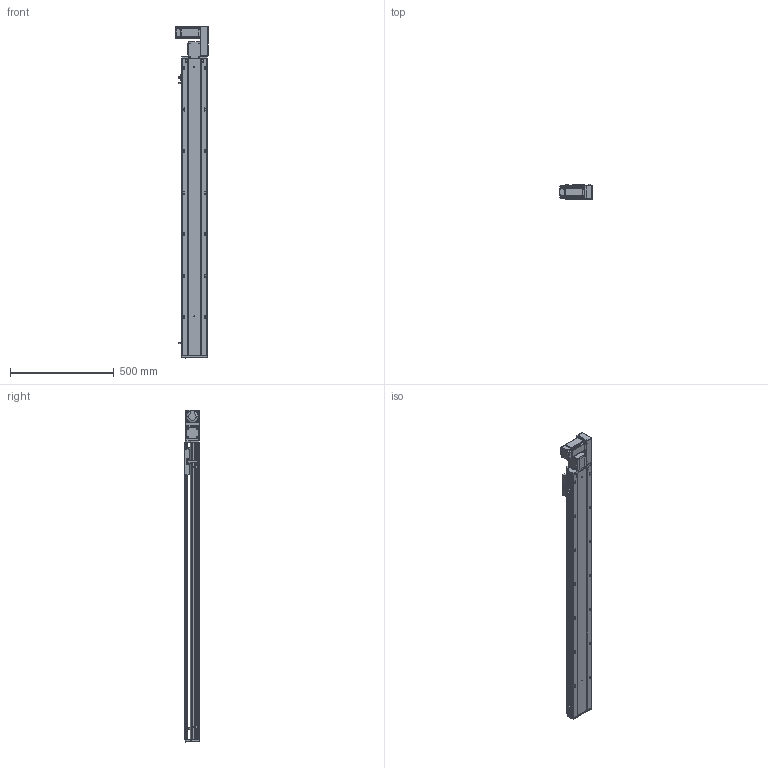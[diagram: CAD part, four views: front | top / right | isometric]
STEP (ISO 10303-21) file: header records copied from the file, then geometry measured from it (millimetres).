
FILE_DESCRIPTION (( 'STEP AP203' ), '1' );
FILE_NAME ('RY120-T-300-RK.SLDASM_1200.step', '2021-03-01T03:53:57', ( '盈信电脑' ), ( '东莞市道滘镇水果街19号' ), 'SwSTEP 2.0', 'SolidWorks 2012', '' );
FILE_SCHEMA (( 'CONFIG_CONTROL_DESIGN' ));
Length unit declared in the file: millimetre
Products named in the file (17): 覜茼ん672; RY120綴裔啣; RY120-T-300-RK倰第奻裔啣_1200; RY120肮祭湍臏賑輸; RY120-T-300-RK倰第菁釱_1200; RY120外置感应片(140共用）; RY120-T萇儂欶; RY120-T蹟翐M4; RY120-T主同步轮轴承压盖; RY120-T-300-RK.SLDASM_1200; 15; RY120-T萇儂假蚾啣; RY120-T翋肮祭謫裔啣; 滅袉蝶18-10; RY120-T肮祭湍揤踡輸2; RY120-T肮祭湍揤踡輸1; RY120-T翋肮祭盓傅釱
Assembly tree (22 placements, depth 2):
  RY120-T-300-RK.SLDASM_1200
    RY120-T-300-RK倰第菁釱_1200
    RY120-T-300-RK倰第奻裔啣_1200
    RY120肮祭湍臏賑輸
    RY120綴裔啣
    覜茼ん672  x3
    RY120外置感应片(140共用）
    RY120-T肮祭湍揤踡輸1
    RY120-T肮祭湍揤踡輸2
    RY120-T翋肮祭盓傅釱
    滅袉蝶18-10  x2
    RY120-T翋肮祭謫裔啣
    15
    RY120-T萇儂假蚾啣
    RY120-T蹟翐M4  x4
    RY120-T萇儂欶
    RY120-T主同步轮轴承压盖
Bounding box: 155.5 x 73 x 1597.5 mm (x, y, z)
Volume: 4056572.9 mm3; surface area: 1523750 mm2
Topology: 23 solids, 23 shells, 2844 faces, 7740 edges, 4950 vertices
Faces by surface type: plane 1412, cylinder 1078, cone 265, bspline 89
Entity records: 90129 total; most frequent: CARTESIAN_POINT 22764, ORIENTED_EDGE 13872, DIRECTION 13182, EDGE_CURVE 6936, VERTEX_POINT 4537, AXIS2_PLACEMENT_3D 4423, VECTOR 4336, LINE 4336
